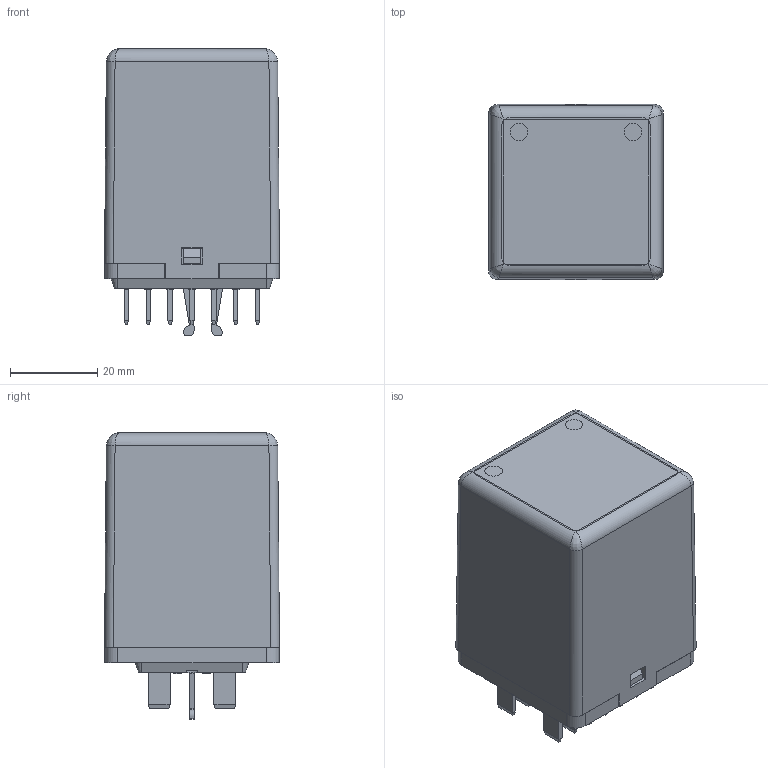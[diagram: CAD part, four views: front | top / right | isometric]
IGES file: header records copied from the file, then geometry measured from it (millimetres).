
Global section: file name: No Iges File Name specified; native system: Autodesk Inventor 2011; preprocessor: AutoDesk Inventor Iges Exporter R2011; author: oey; date: 20110308.081009; units: millimetre
Bounding box: 40 x 40.06 x 65.45 mm (x, y, z)
Volume: 23996.2 mm3; surface area: 28734 mm2
Topology: 1 solids, 1 shells, 1524 faces, 4308 edges, 2734 vertices
Faces by surface type: plane 793, bspline 391, cylinder 164, revolution 142, sphere 28, cone 4, torus 2
